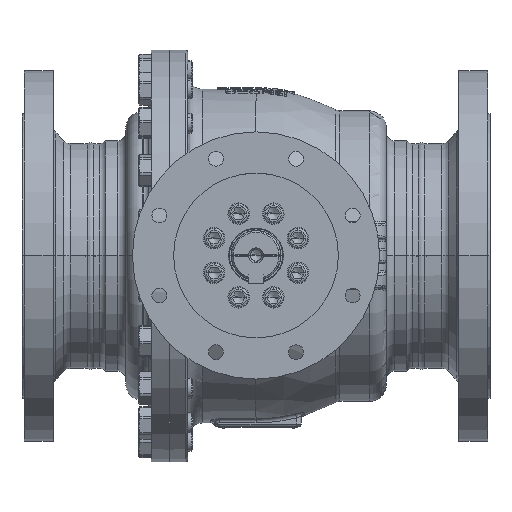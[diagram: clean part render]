
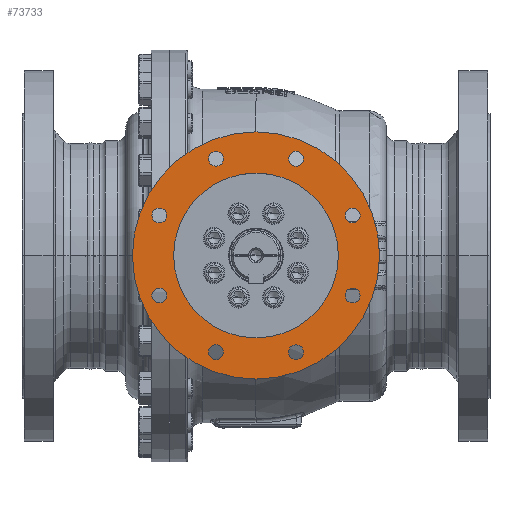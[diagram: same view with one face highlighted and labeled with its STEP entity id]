
A CAD part, top view. The second image highlights one B-rep face of the part: STEP entity #73733.
In plain terms, the highlighted planar face has unit normal (0, 0, 1).
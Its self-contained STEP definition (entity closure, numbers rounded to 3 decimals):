
#8668=CARTESIAN_POINT('',(0.,0.,349.));
#8669=DIRECTION('',(0.,0.,1.));
#8670=DIRECTION('',(1.,0.,0.));
#8671=AXIS2_PLACEMENT_3D('',#8668,#8669,#8670);
#8673=CARTESIAN_POINT('',(0.,0.,349.));
#8674=DIRECTION('',(0.,0.,-1.));
#8675=DIRECTION('',(1.,0.,0.));
#8676=AXIS2_PLACEMENT_3D('',#8673,#8674,#8675);
#8678=CARTESIAN_POINT('',(-117.333,48.601,349.));
#8679=DIRECTION('',(0.,0.,-1.));
#8680=DIRECTION('',(-1.,0.,0.));
#8681=AXIS2_PLACEMENT_3D('',#8678,#8679,#8680);
#8683=CARTESIAN_POINT('',(-117.333,48.601,349.));
#8684=DIRECTION('',(0.,0.,-1.));
#8685=DIRECTION('',(1.,0.,0.));
#8686=AXIS2_PLACEMENT_3D('',#8683,#8684,#8685);
#8688=CARTESIAN_POINT('',(-48.601,117.333,349.));
#8689=DIRECTION('',(0.,0.,-1.));
#8690=DIRECTION('',(-0.707,0.707,0.));
#8691=AXIS2_PLACEMENT_3D('',#8688,#8689,#8690);
#8693=CARTESIAN_POINT('',(-48.601,117.333,349.));
#8694=DIRECTION('',(0.,0.,-1.));
#8695=DIRECTION('',(0.707,-0.707,0.));
#8696=AXIS2_PLACEMENT_3D('',#8693,#8694,#8695);
#8698=CARTESIAN_POINT('',(48.601,117.333,349.));
#8699=DIRECTION('',(0.,0.,-1.));
#8700=DIRECTION('',(0.,1.,0.));
#8701=AXIS2_PLACEMENT_3D('',#8698,#8699,#8700);
#8703=CARTESIAN_POINT('',(48.601,117.333,349.));
#8704=DIRECTION('',(0.,0.,-1.));
#8705=DIRECTION('',(0.,-1.,0.));
#8706=AXIS2_PLACEMENT_3D('',#8703,#8704,#8705);
#8708=CARTESIAN_POINT('',(117.333,48.601,349.));
#8709=DIRECTION('',(0.,0.,-1.));
#8710=DIRECTION('',(0.707,0.707,0.));
#8711=AXIS2_PLACEMENT_3D('',#8708,#8709,#8710);
#8713=CARTESIAN_POINT('',(117.333,48.601,349.));
#8714=DIRECTION('',(0.,0.,-1.));
#8715=DIRECTION('',(-0.707,-0.707,0.));
#8716=AXIS2_PLACEMENT_3D('',#8713,#8714,#8715);
#8718=CARTESIAN_POINT('',(117.333,-48.601,349.));
#8719=DIRECTION('',(0.,0.,-1.));
#8720=DIRECTION('',(1.,0.,0.));
#8721=AXIS2_PLACEMENT_3D('',#8718,#8719,#8720);
#8723=CARTESIAN_POINT('',(117.333,-48.601,349.));
#8724=DIRECTION('',(0.,0.,-1.));
#8725=DIRECTION('',(-1.,0.,0.));
#8726=AXIS2_PLACEMENT_3D('',#8723,#8724,#8725);
#8728=CARTESIAN_POINT('',(48.601,-117.333,349.));
#8729=DIRECTION('',(0.,0.,-1.));
#8730=DIRECTION('',(0.707,-0.707,0.));
#8731=AXIS2_PLACEMENT_3D('',#8728,#8729,#8730);
#8733=CARTESIAN_POINT('',(48.601,-117.333,349.));
#8734=DIRECTION('',(0.,0.,-1.));
#8735=DIRECTION('',(-0.707,0.707,0.));
#8736=AXIS2_PLACEMENT_3D('',#8733,#8734,#8735);
#8738=CARTESIAN_POINT('',(-48.601,-117.333,349.));
#8739=DIRECTION('',(0.,0.,-1.));
#8740=DIRECTION('',(0.,-1.,0.));
#8741=AXIS2_PLACEMENT_3D('',#8738,#8739,#8740);
#8743=CARTESIAN_POINT('',(-48.601,-117.333,349.));
#8744=DIRECTION('',(0.,0.,-1.));
#8745=DIRECTION('',(0.,1.,0.));
#8746=AXIS2_PLACEMENT_3D('',#8743,#8744,#8745);
#8748=CARTESIAN_POINT('',(-117.333,-48.601,349.));
#8749=DIRECTION('',(0.,0.,-1.));
#8750=DIRECTION('',(-0.707,-0.707,0.));
#8751=AXIS2_PLACEMENT_3D('',#8748,#8749,#8750);
#8753=CARTESIAN_POINT('',(-117.333,-48.601,349.));
#8754=DIRECTION('',(0.,0.,-1.));
#8755=DIRECTION('',(0.707,0.707,0.));
#8756=AXIS2_PLACEMENT_3D('',#8753,#8754,#8755);
#8762=CARTESIAN_POINT('',(0.,0.,349.));
#8763=DIRECTION('',(0.,0.,-1.));
#8764=DIRECTION('',(1.,0.,0.));
#8765=AXIS2_PLACEMENT_3D('',#8762,#8763,#8764);
#8771=CARTESIAN_POINT('',(0.,0.,349.));
#8772=DIRECTION('',(0.,0.,1.));
#8773=DIRECTION('',(1.,0.,0.));
#8774=AXIS2_PLACEMENT_3D('',#8771,#8772,#8773);
#58120=CARTESIAN_POINT('',(100.,0.,349.));
#58122=VERTEX_POINT('',#58120);
#58124=CARTESIAN_POINT('',(-100.,0.,349.));
#58126=VERTEX_POINT('',#58124);
#58128=CARTESIAN_POINT('',(150.,0.,349.));
#58129=CARTESIAN_POINT('',(-150.,0.,349.));
#58130=VERTEX_POINT('',#58128);
#58131=VERTEX_POINT('',#58129);
#58264=CARTESIAN_POINT('',(-126.333,48.601,349.));
#58265=CARTESIAN_POINT('',(-108.333,48.601,349.));
#58266=VERTEX_POINT('',#58264);
#58267=VERTEX_POINT('',#58265);
#58268=CARTESIAN_POINT('',(-54.965,123.697,349.));
#58269=CARTESIAN_POINT('',(-42.237,110.969,349.));
#58270=VERTEX_POINT('',#58268);
#58271=VERTEX_POINT('',#58269);
#58272=CARTESIAN_POINT('',(48.601,126.333,349.));
#58273=CARTESIAN_POINT('',(48.601,108.333,349.));
#58274=VERTEX_POINT('',#58272);
#58275=VERTEX_POINT('',#58273);
#58276=CARTESIAN_POINT('',(123.697,54.965,349.));
#58277=CARTESIAN_POINT('',(110.969,42.237,349.));
#58278=VERTEX_POINT('',#58276);
#58279=VERTEX_POINT('',#58277);
#58280=CARTESIAN_POINT('',(126.333,-48.601,349.));
#58281=CARTESIAN_POINT('',(108.333,-48.601,349.));
#58282=VERTEX_POINT('',#58280);
#58283=VERTEX_POINT('',#58281);
#58284=CARTESIAN_POINT('',(54.965,-123.697,349.));
#58285=CARTESIAN_POINT('',(42.237,-110.969,349.));
#58286=VERTEX_POINT('',#58284);
#58287=VERTEX_POINT('',#58285);
#58288=CARTESIAN_POINT('',(-48.601,-126.333,349.));
#58289=CARTESIAN_POINT('',(-48.601,-108.333,349.));
#58290=VERTEX_POINT('',#58288);
#58291=VERTEX_POINT('',#58289);
#58292=CARTESIAN_POINT('',(-123.697,-54.965,349.));
#58293=CARTESIAN_POINT('',(-110.969,-42.237,349.));
#58294=VERTEX_POINT('',#58292);
#58295=VERTEX_POINT('',#58293);
#73670=CARTESIAN_POINT('',(0.,0.,349.));
#73671=DIRECTION('',(0.,0.,1.));
#73672=DIRECTION('',(1.,0.,0.));
#73673=AXIS2_PLACEMENT_3D('',#73670,#73671,#73672);
#73674=PLANE('',#73673);
#73675=ORIENTED_EDGE('',*,*,#73649,.F.);
#73676=ORIENTED_EDGE('',*,*,#73665,.T.);
#73677=EDGE_LOOP('',(#73675,#73676));
#73678=FACE_OUTER_BOUND('',#73677,.F.);
#73680=ORIENTED_EDGE('',*,*,#73679,.F.);
#73682=ORIENTED_EDGE('',*,*,#73681,.T.);
#73683=EDGE_LOOP('',(#73680,#73682));
#73684=FACE_BOUND('',#73683,.F.);
#73686=ORIENTED_EDGE('',*,*,#73685,.F.);
#73688=ORIENTED_EDGE('',*,*,#73687,.F.);
#73689=EDGE_LOOP('',(#73686,#73688));
#73690=FACE_BOUND('',#73689,.F.);
#73692=ORIENTED_EDGE('',*,*,#73691,.F.);
#73694=ORIENTED_EDGE('',*,*,#73693,.F.);
#73695=EDGE_LOOP('',(#73692,#73694));
#73696=FACE_BOUND('',#73695,.F.);
#73698=ORIENTED_EDGE('',*,*,#73697,.F.);
#73700=ORIENTED_EDGE('',*,*,#73699,.F.);
#73701=EDGE_LOOP('',(#73698,#73700));
#73702=FACE_BOUND('',#73701,.F.);
#73704=ORIENTED_EDGE('',*,*,#73703,.F.);
#73706=ORIENTED_EDGE('',*,*,#73705,.F.);
#73707=EDGE_LOOP('',(#73704,#73706));
#73708=FACE_BOUND('',#73707,.F.);
#73710=ORIENTED_EDGE('',*,*,#73709,.F.);
#73712=ORIENTED_EDGE('',*,*,#73711,.F.);
#73713=EDGE_LOOP('',(#73710,#73712));
#73714=FACE_BOUND('',#73713,.F.);
#73716=ORIENTED_EDGE('',*,*,#73715,.F.);
#73718=ORIENTED_EDGE('',*,*,#73717,.F.);
#73719=EDGE_LOOP('',(#73716,#73718));
#73720=FACE_BOUND('',#73719,.F.);
#73722=ORIENTED_EDGE('',*,*,#73721,.F.);
#73724=ORIENTED_EDGE('',*,*,#73723,.F.);
#73725=EDGE_LOOP('',(#73722,#73724));
#73726=FACE_BOUND('',#73725,.F.);
#73728=ORIENTED_EDGE('',*,*,#73727,.F.);
#73730=ORIENTED_EDGE('',*,*,#73729,.F.);
#73731=EDGE_LOOP('',(#73728,#73730));
#73732=FACE_BOUND('',#73731,.F.);
#73733=ADVANCED_FACE('',(#73678,#73684,#73690,#73696,#73702,#73708,#73714,
#73720,#73726,#73732),#73674,.T.);
#8672=CIRCLE('',#8671,150.);
#8677=CIRCLE('',#8676,150.);
#8682=CIRCLE('',#8681,9.);
#8687=CIRCLE('',#8686,9.);
#8692=CIRCLE('',#8691,9.);
#8697=CIRCLE('',#8696,9.);
#8702=CIRCLE('',#8701,9.);
#8707=CIRCLE('',#8706,9.);
#8712=CIRCLE('',#8711,9.);
#8717=CIRCLE('',#8716,9.);
#8722=CIRCLE('',#8721,9.);
#8727=CIRCLE('',#8726,9.);
#8732=CIRCLE('',#8731,9.);
#8737=CIRCLE('',#8736,9.);
#8742=CIRCLE('',#8741,9.);
#8747=CIRCLE('',#8746,9.);
#8752=CIRCLE('',#8751,9.);
#8757=CIRCLE('',#8756,9.);
#8766=CIRCLE('',#8765,100.);
#8775=CIRCLE('',#8774,100.);
#73649=EDGE_CURVE('',#58130,#58131,#8672,.T.);
#73665=EDGE_CURVE('',#58130,#58131,#8677,.T.);
#73679=EDGE_CURVE('',#58122,#58126,#8766,.T.);
#73681=EDGE_CURVE('',#58122,#58126,#8775,.T.);
#73685=EDGE_CURVE('',#58266,#58267,#8682,.T.);
#73687=EDGE_CURVE('',#58267,#58266,#8687,.T.);
#73691=EDGE_CURVE('',#58270,#58271,#8692,.T.);
#73693=EDGE_CURVE('',#58271,#58270,#8697,.T.);
#73697=EDGE_CURVE('',#58274,#58275,#8702,.T.);
#73699=EDGE_CURVE('',#58275,#58274,#8707,.T.);
#73703=EDGE_CURVE('',#58278,#58279,#8712,.T.);
#73705=EDGE_CURVE('',#58279,#58278,#8717,.T.);
#73709=EDGE_CURVE('',#58282,#58283,#8722,.T.);
#73711=EDGE_CURVE('',#58283,#58282,#8727,.T.);
#73715=EDGE_CURVE('',#58286,#58287,#8732,.T.);
#73717=EDGE_CURVE('',#58287,#58286,#8737,.T.);
#73721=EDGE_CURVE('',#58290,#58291,#8742,.T.);
#73723=EDGE_CURVE('',#58291,#58290,#8747,.T.);
#73727=EDGE_CURVE('',#58294,#58295,#8752,.T.);
#73729=EDGE_CURVE('',#58295,#58294,#8757,.T.);
